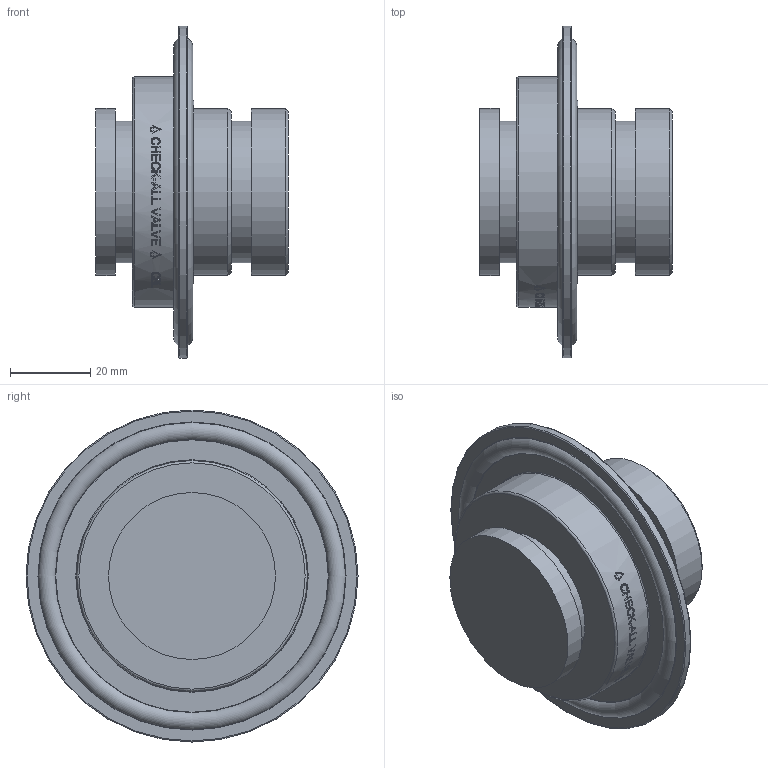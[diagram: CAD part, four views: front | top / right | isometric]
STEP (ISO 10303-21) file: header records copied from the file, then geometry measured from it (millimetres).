
FILE_DESCRIPTION( ( 'Unknown' ), '1' );
FILE_NAME( 'Y:/ENGR/3D Solid Edge Models/CB/Stp/CBL .stp', 'Unknown', ( 'Unknown' ), ( 'Unknown' ), 'PSStep 16.0.42', 'Unknown', ' ' );
FILE_SCHEMA( ( 'AUTOMOTIVE_DESIGN { 1 0 10303 214 1 1 1 1 }' ) );
Length unit declared in the file: millimetre
Products named in the file (1): 1
Bounding box: 47.98 x 82.55 x 82.55 mm (x, y, z)
Volume: 86415.6 mm3; surface area: 19275.7 mm2
Topology: 1 solids, 1 shells, 217 faces, 533 edges, 352 vertices
Faces by surface type: plane 121, bspline 49, cylinder 32, torus 12, cone 3
Full cylindrical faces by diameter (mm): 35.179 x2, 41.529 x3, 57.277 x1, 82.55 x1
Entity records: 9766 total; most frequent: CARTESIAN_POINT 4041, ORIENTED_EDGE 1018, EDGE_CURVE 509, B_SPLINE_CURVE_WITH_KNOTS 477, DIRECTION 402, VERTEX_POINT 350, EDGE_LOOP 273, FACE_OUTER_BOUND 236
